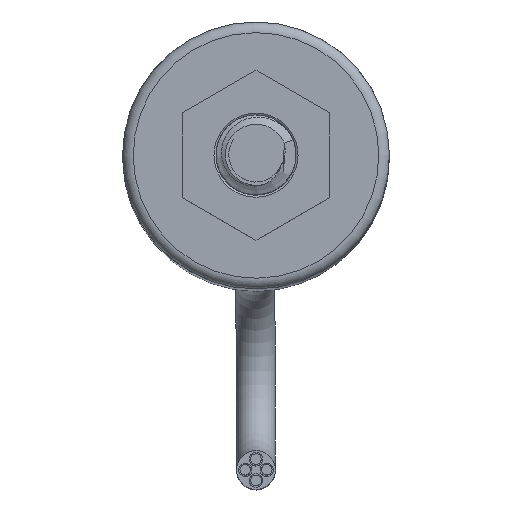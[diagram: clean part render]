
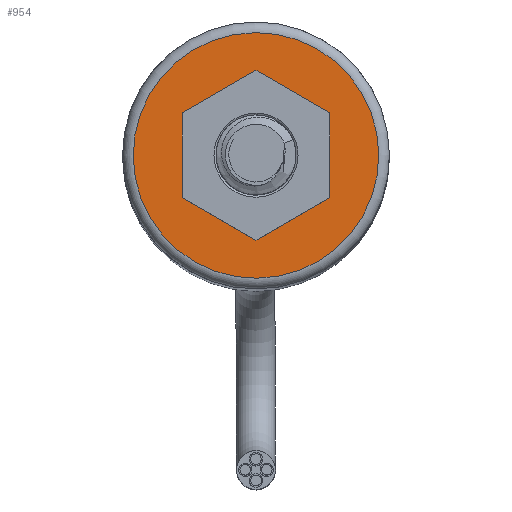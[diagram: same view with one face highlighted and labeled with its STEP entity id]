
A CAD part, top view. The second image highlights one B-rep face of the part: STEP entity #954.
In plain terms, the highlighted planar face has unit normal (0, 0, 1).
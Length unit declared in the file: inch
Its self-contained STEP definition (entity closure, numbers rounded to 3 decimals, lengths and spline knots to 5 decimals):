
#69=FACE_BOUND('',#190,.T.);
#87=PLANE('',#1193);
#123=FACE_OUTER_BOUND('',#189,.T.);
#189=EDGE_LOOP('',(#642));
#190=EDGE_LOOP('',(#643));
#367=CIRCLE('',#1188,0.23);
#371=CIRCLE('',#1194,0.11);
#424=VERTEX_POINT('',#1625);
#427=VERTEX_POINT('',#1635);
#506=EDGE_CURVE('',#424,#424,#367,.T.);
#511=EDGE_CURVE('',#427,#427,#371,.T.);
#642=ORIENTED_EDGE('',*,*,#506,.F.);
#643=ORIENTED_EDGE('',*,*,#511,.T.);
#954=ADVANCED_FACE('',(#123,#69),#87,.T.);
#1188=AXIS2_PLACEMENT_3D('',#1626,#1328,#1329);
#1193=AXIS2_PLACEMENT_3D('',#1634,#1339,#1340);
#1194=AXIS2_PLACEMENT_3D('',#1636,#1341,#1342);
#1328=DIRECTION('center_axis',(0.,0.,
-1.));
#1329=DIRECTION('ref_axis',(0.87,-0.494,0.));
#1339=DIRECTION('center_axis',(0.,0.,
1.));
#1340=DIRECTION('ref_axis',(-0.87,0.494,0.));
#1341=DIRECTION('center_axis',(0.,0.,
-1.));
#1342=DIRECTION('ref_axis',(-0.87,0.494,0.));
#1625=CARTESIAN_POINT('',(0.19999,-0.1136,0.03));
#1626=CARTESIAN_POINT('Origin',(0.,0.,
0.03));
#1634=CARTESIAN_POINT('Origin',(0.,0.,
0.03));
#1635=CARTESIAN_POINT('',(0.09565,-0.05433,0.03));
#1636=CARTESIAN_POINT('Origin',(0.,0.,
0.03));
